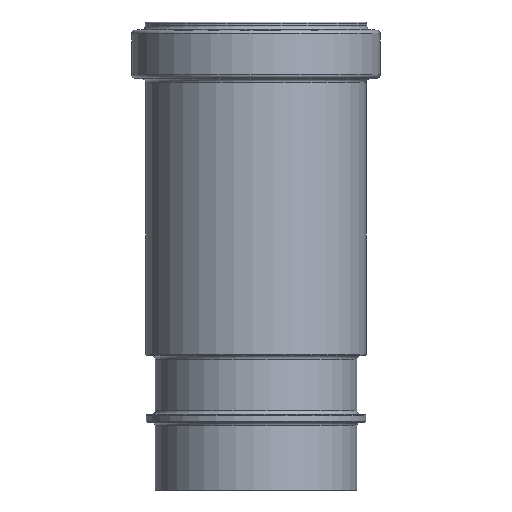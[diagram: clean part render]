
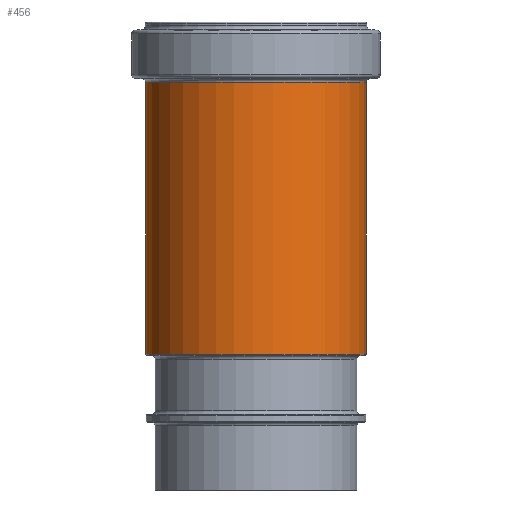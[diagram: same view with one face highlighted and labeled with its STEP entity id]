
A CAD part, front view. The second image highlights one B-rep face of the part: STEP entity #456.
In plain terms, the highlighted cylindrical face has radius 60.375 mm (diameter 120.75 mm), a full revolution.
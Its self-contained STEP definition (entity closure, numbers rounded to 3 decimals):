
#29=CYLINDRICAL_SURFACE('',#523,60.375);
#48=FACE_BOUND('',#139,.T.);
#87=FACE_OUTER_BOUND('',#138,.T.);
#138=EDGE_LOOP('',(#333));
#139=EDGE_LOOP('',(#334));
#196=CIRCLE('',#505,60.375);
#206=CIRCLE('',#524,60.375);
#235=VERTEX_POINT('',#746);
#245=VERTEX_POINT('',#775);
#274=EDGE_CURVE('',#235,#235,#196,.T.);
#284=EDGE_CURVE('',#245,#245,#206,.T.);
#333=ORIENTED_EDGE('',*,*,#284,.T.);
#334=ORIENTED_EDGE('',*,*,#274,.T.);
#456=ADVANCED_FACE('',(#87,#48),#29,.T.);
#505=AXIS2_PLACEMENT_3D('',#747,#593,#594);
#523=AXIS2_PLACEMENT_3D('',#774,#629,#630);
#524=AXIS2_PLACEMENT_3D('',#776,#631,#632);
#593=DIRECTION('center_axis',(0.,0.,-1.));
#594=DIRECTION('ref_axis',(-0.878,-0.479,0.));
#629=DIRECTION('center_axis',(0.,0.,1.));
#630=DIRECTION('ref_axis',(1.,0.,0.));
#631=DIRECTION('center_axis',(0.,0.,1.));
#632=DIRECTION('ref_axis',(-0.878,-0.479,0.));
#746=CARTESIAN_POINT('',(-52.984,-28.945,-33.12));
#747=CARTESIAN_POINT('Origin',(0.,0.,-33.12));
#774=CARTESIAN_POINT('Origin',(0.,0.,-128.187));
#775=CARTESIAN_POINT('',(52.984,28.945,-182.104));
#776=CARTESIAN_POINT('Origin',(0.,0.,-182.104));
